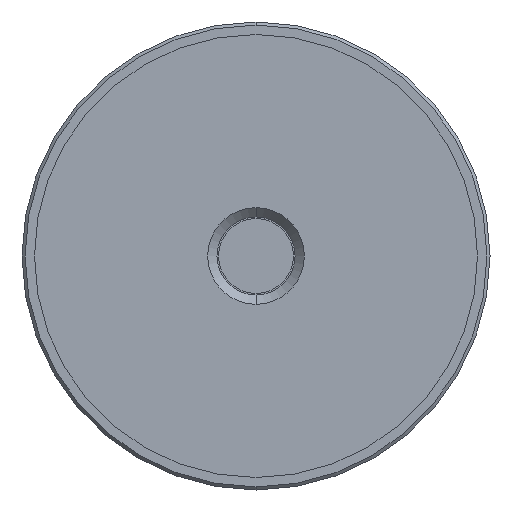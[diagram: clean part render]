
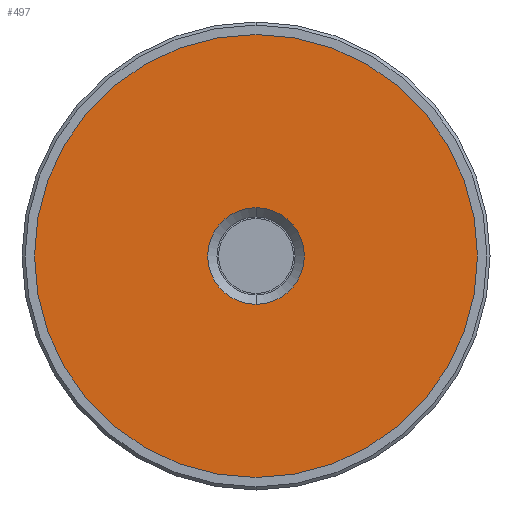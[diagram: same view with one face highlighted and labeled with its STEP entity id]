
A CAD part, front view. The second image highlights one B-rep face of the part: STEP entity #497.
In plain terms, the highlighted planar face has unit normal (0, -1, 0).
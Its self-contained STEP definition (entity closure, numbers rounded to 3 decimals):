
#70 = AXIS2_PLACEMENT_3D ( 'NONE', #727, #530, #919 ) ;
#101 = VERTEX_POINT ( 'NONE', #166 ) ;
#130 = VERTEX_POINT ( 'NONE', #946 ) ;
#136 = CIRCLE ( 'NONE', #70, 35.5 ) ;
#147 = ORIENTED_EDGE ( 'NONE', *, *, #490, .F. ) ;
#157 = VERTEX_POINT ( 'NONE', #1156 ) ;
#166 = CARTESIAN_POINT ( 'NONE',  ( 0., -1.5, -35.5 ) ) ;
#168 = DIRECTION ( 'NONE',  ( 0., -1., 0. ) ) ;
#228 = ORIENTED_EDGE ( 'NONE', *, *, #1157, .T. ) ;
#231 = AXIS2_PLACEMENT_3D ( 'NONE', #1055, #780, #272 ) ;
#252 = CIRCLE ( 'NONE', #731, 7.75 ) ;
#266 = CIRCLE ( 'NONE', #231, 35.5 ) ;
#272 = DIRECTION ( 'NONE',  ( 0., 0., 1. ) ) ;
#279 = DIRECTION ( 'NONE',  ( 0., 0., -1. ) ) ;
#297 = CARTESIAN_POINT ( 'NONE',  ( 0., -1.5, 0. ) ) ;
#298 = DIRECTION ( 'NONE',  ( 0., 0., -1. ) ) ;
#301 = DIRECTION ( 'NONE',  ( 0., 0., -1. ) ) ;
#305 = CIRCLE ( 'NONE', #387, 7.75 ) ;
#314 = EDGE_LOOP ( 'NONE', ( #147, #934 ) ) ;
#387 = AXIS2_PLACEMENT_3D ( 'NONE', #466, #1033, #279 ) ;
#407 = CARTESIAN_POINT ( 'NONE',  ( 0., -1.5, -7.75 ) ) ;
#466 = CARTESIAN_POINT ( 'NONE',  ( 0., -1.5, 0. ) ) ;
#490 = EDGE_CURVE ( 'NONE', #157, #101, #266, .T. ) ;
#497 = ADVANCED_FACE ( 'NONE', ( #722, #1268 ), #1024, .T. ) ;
#530 = DIRECTION ( 'NONE',  ( 0., 1., 0. ) ) ;
#614 = VERTEX_POINT ( 'NONE', #407 ) ;
#722 = FACE_BOUND ( 'NONE', #821, .T. ) ;
#727 = CARTESIAN_POINT ( 'NONE',  ( 0., -1.5, 0. ) ) ;
#731 = AXIS2_PLACEMENT_3D ( 'NONE', #297, #944, #301 ) ;
#744 = EDGE_CURVE ( 'NONE', #101, #157, #136, .T. ) ;
#780 = DIRECTION ( 'NONE',  ( 0., 1., 0. ) ) ;
#821 = EDGE_LOOP ( 'NONE', ( #836, #228 ) ) ;
#836 = ORIENTED_EDGE ( 'NONE', *, *, #951, .T. ) ;
#919 = DIRECTION ( 'NONE',  ( 0., 0., 1. ) ) ;
#934 = ORIENTED_EDGE ( 'NONE', *, *, #744, .F. ) ;
#944 = DIRECTION ( 'NONE',  ( 0., 1., 0. ) ) ;
#946 = CARTESIAN_POINT ( 'NONE',  ( 0., -1.5, 7.75 ) ) ;
#951 = EDGE_CURVE ( 'NONE', #614, #130, #305, .T. ) ;
#1023 = CARTESIAN_POINT ( 'NONE',  ( 0., -1.5, 35.5 ) ) ;
#1024 = PLANE ( 'NONE',  #1233 ) ;
#1033 = DIRECTION ( 'NONE',  ( 0., 1., 0. ) ) ;
#1055 = CARTESIAN_POINT ( 'NONE',  ( 0., -1.5, 0. ) ) ;
#1156 = CARTESIAN_POINT ( 'NONE',  ( 0., -1.5, 35.5 ) ) ;
#1157 = EDGE_CURVE ( 'NONE', #130, #614, #252, .T. ) ;
#1233 = AXIS2_PLACEMENT_3D ( 'NONE', #1023, #168, #298 ) ;
#1268 = FACE_OUTER_BOUND ( 'NONE', #314, .T. ) ;
